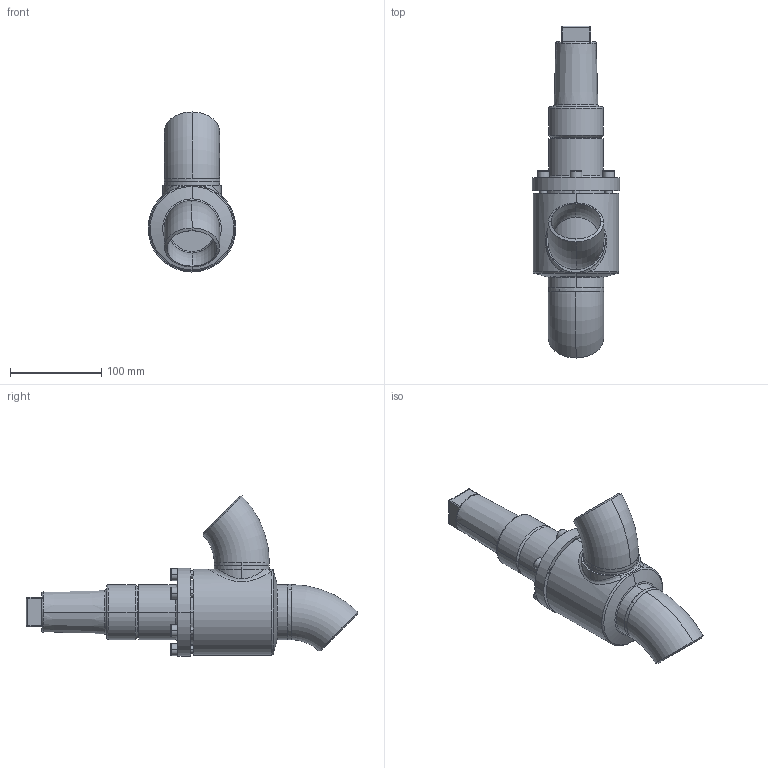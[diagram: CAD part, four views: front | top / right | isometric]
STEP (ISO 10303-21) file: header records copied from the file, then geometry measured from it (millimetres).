
FILE_DESCRIPTION (( 'STEP AP214' ), '1' );
FILE_NAME ('RVA29300D15-DN050_R1_PS40.STEP', '2006-04-28T05:32:50', ( 'Herr Grams' ), ( 'AWP GmbH' ), 'SwSTEP 2.0', 'SolidWorks 2002296', '' );
FILE_SCHEMA (( 'AUTOMOTIVE_DESIGN' ));
Length unit declared in the file: millimetre
Products named in the file (10): RVA29300D15-DN050_R1_PS40; Gehäuse-kpl16300-DN050_R1_Standard; Gehäuse16300-DN050_Standard; bead16300-Geh-050-2_Standard; bead16300-Geh-050-1_Standard; Rohrbogen 45°_R1-Fase_Rohrbogen-DN050-45°; RVA29300E15_Deck-Schr-DN40-50_Standard; Deckel29300E15-DN40-50_Standard; Zylinderschraube-DIN912_M 8x 25; Kappe16402_DN040-65_Standard
Assembly tree (15 placements, depth 3):
  RVA29300D15-DN050_R1_PS40
    Kappe16402_DN040-65_Standard
    Gehäuse-kpl16300-DN050_R1_Standard
      bead16300-Geh-050-1_Standard
      Rohrbogen 45°_R1-Fase_Rohrbogen-DN050-45°  x2
      Gehäuse16300-DN050_Standard
      bead16300-Geh-050-2_Standard
    RVA29300E15_Deck-Schr-DN40-50_Standard
      Zylinderschraube-DIN912_M 8x 25  x6
      Deckel29300E15-DN40-50_Standard
Bounding box: 96 x 362.93 x 174.93 mm (x, y, z)
Volume: 921636.4 mm3; surface area: 190474.1 mm2
Topology: 13 solids, 13 shells, 272 faces, 609 edges, 384 vertices
Faces by surface type: plane 93, cylinder 87, cone 48, torus 33, bspline 11
Entity records: 35229 total; most frequent: CARTESIAN_POINT 30693, DIRECTION 854, ORIENTED_EDGE 794, EDGE_CURVE 397, AXIS2_PLACEMENT_3D 362, VERTEX_POINT 250, EDGE_LOOP 205, CIRCLE 181
